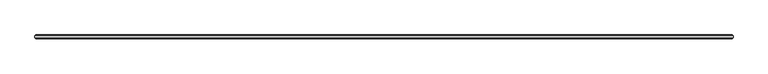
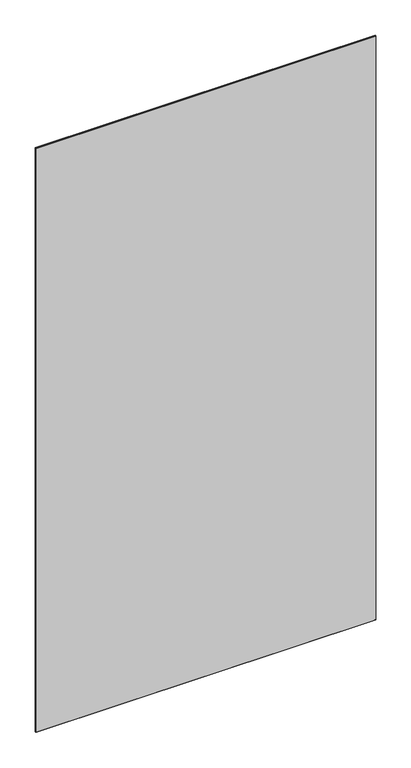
"""IFC4 building model written with IfcOpenShell, lengths in millimetres: plate geometry, 1-AMG-1-Панель одинарный витраж 8, 10 : Смещение 32 Толщина 8mm."""

from ifc_helpers import new_model, si_unit, origin, place, context, project, spatial, faceted_brep, source, transform, mapped, element, save


def plate_43e82b48(model_context):
    return source(origin(), model_context, "Body", "Brep", [
        faceted_brep([(751.1046876, 29.5038347, 2722.8), (751.1046876, 34.4961653, 2722.8), (-751.1046876, 34.4961653, 2722.8), (-751.1046876, 29.5038347, 2722.8), (751.1046876, 34.4961653, -7.0), (751.1046876, 29.5038347, -7.0), (-751.1046876, 29.5038347, -7.0), (-751.1046876, 34.4961653, -7.0), (-749.6008529, 36.0, 2721.2961653), (749.6008529, 36.0, 2721.2961653), (749.6008529, 36.0, -5.5039422), (-749.6008529, 36.0, -5.5039422), (749.6008529, 28.0, 2721.2961653), (-749.6008529, 28.0, 2721.2961653), (-749.6008529, 28.0, -5.4961653), (749.6008529, 28.0, -5.4961653)], [[[0, 1, 2, 3]], [[4, 5, 6, 7]], [[8, 9, 10, 11]], [[3, 2, 7, 6]], [[12, 13, 14, 15]], [[1, 0, 5, 4]], [[1, 4, 10, 9]], [[5, 0, 12, 15]], [[7, 2, 8, 11]], [[3, 6, 14, 13]], [[0, 3, 13, 12]], [[2, 1, 9, 8]], [[6, 5, 15, 14]], [[4, 7, 11, 10]]]),
    ])


if __name__ == "__main__":
    model = new_model("IFC4")
    model_context = context("Model", 3, world=origin())
    ifc_project = project(units=[si_unit("LENGTHUNIT", "METRE", prefix="MILLI")], contexts=[model_context])
    site = spatial("IfcSite", under=ifc_project)
    building = spatial("IfcBuilding", under=site)
    placement = place(None, origin())
    plate_shape = plate_43e82b48(model_context)
    element("IfcPlate", 1, ObjectType="1-AMG-1-Панель одинарный витраж 8, 10 : Смещение 32 Толщина 8mm", at=placement, inside=building, context=model_context, shape_type="MappedRepresentation", body=[
        mapped(plate_shape, transform((0.0, 0.0, 0.0), x_axis=(1.0, 0.0, 0.0), y_axis=(0.0, 1.0, 0.0), z_axis=(0.0, 0.0, 1.0))),
    ])
    save(model, "model.ifc")
